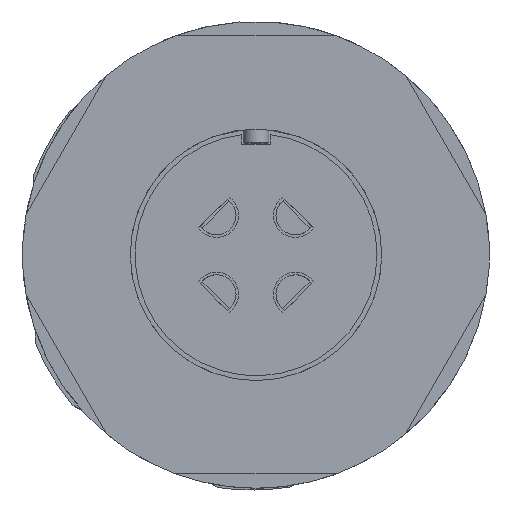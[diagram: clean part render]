
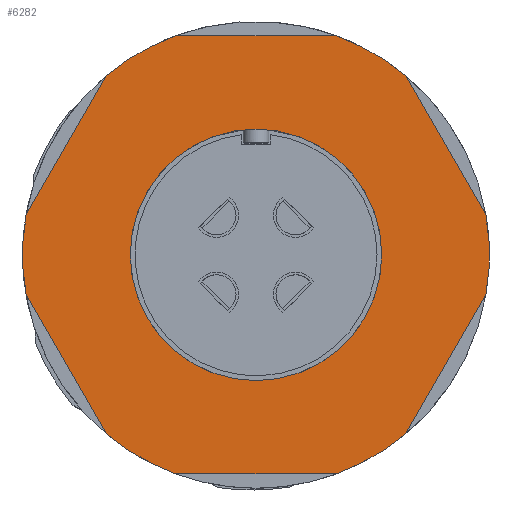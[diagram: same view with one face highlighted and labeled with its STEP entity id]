
A CAD part, front view. The second image highlights one B-rep face of the part: STEP entity #6282.
In plain terms, the highlighted planar face has unit normal (0, -1, 0).
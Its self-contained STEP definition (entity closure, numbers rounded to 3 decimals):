
#123=CARTESIAN_POINT('',(0.,0.,0.));
#124=DIRECTION('',(0.,1.,0.));
#125=DIRECTION('',(0.344,0.,0.939));
#126=AXIS2_PLACEMENT_3D('',#123,#124,#125);
#128=DIRECTION('',(0.5,0.,-0.866));
#129=VECTOR('',#128,6.196);
#130=CARTESIAN_POINT('',(5.769,0.,6.908));
#131=LINE('',#130,#129);
#132=CARTESIAN_POINT('',(0.,0.,0.));
#133=DIRECTION('',(0.,1.,0.));
#134=DIRECTION('',(0.985,0.,0.171));
#135=AXIS2_PLACEMENT_3D('',#132,#133,#134);
#137=DIRECTION('',(-0.5,0.,-0.866));
#138=VECTOR('',#137,6.196);
#139=CARTESIAN_POINT('',(8.867,0.,-1.542));
#140=LINE('',#139,#138);
#141=CARTESIAN_POINT('',(0.,0.,0.));
#142=DIRECTION('',(0.,1.,0.));
#143=DIRECTION('',(0.641,0.,-0.768));
#144=AXIS2_PLACEMENT_3D('',#141,#142,#143);
#146=CARTESIAN_POINT('',(0.,0.,0.));
#147=DIRECTION('',(0.,1.,0.));
#148=DIRECTION('',(-0.344,0.,-0.939));
#149=AXIS2_PLACEMENT_3D('',#146,#147,#148);
#151=DIRECTION('',(-0.5,0.,0.866));
#152=VECTOR('',#151,6.196);
#153=CARTESIAN_POINT('',(-5.769,0.,-6.908));
#154=LINE('',#153,#152);
#155=CARTESIAN_POINT('',(0.,0.,0.));
#156=DIRECTION('',(0.,1.,0.));
#157=DIRECTION('',(-0.985,0.,-0.171));
#158=AXIS2_PLACEMENT_3D('',#155,#156,#157);
#160=DIRECTION('',(0.5,0.,0.866));
#161=VECTOR('',#160,6.196);
#162=CARTESIAN_POINT('',(-8.867,0.,1.542));
#163=LINE('',#162,#161);
#164=CARTESIAN_POINT('',(0.,0.,0.));
#165=DIRECTION('',(0.,1.,0.));
#166=DIRECTION('',(-0.641,0.,0.768));
#167=AXIS2_PLACEMENT_3D('',#164,#165,#166);
#169=CARTESIAN_POINT('',(0.,0.,0.));
#170=DIRECTION('',(0.,-1.,0.));
#171=DIRECTION('',(0.,0.,-1.));
#172=AXIS2_PLACEMENT_3D('',#169,#170,#171);
#174=CARTESIAN_POINT('',(0.,0.,0.));
#175=DIRECTION('',(0.,-1.,0.));
#176=DIRECTION('',(0.,0.,1.));
#177=AXIS2_PLACEMENT_3D('',#174,#175,#176);
#204=DIRECTION('',(1.,0.,0.));
#205=VECTOR('',#204,6.196);
#206=CARTESIAN_POINT('',(-3.098,0.,-8.45));
#207=LINE('',#206,#205);
#264=DIRECTION('',(-1.,0.,0.));
#265=VECTOR('',#264,6.196);
#266=CARTESIAN_POINT('',(3.098,0.,8.45));
#267=LINE('',#266,#265);
#5478=CARTESIAN_POINT('',(-8.867,0.,1.542));
#5479=VERTEX_POINT('',#5478);
#5480=CARTESIAN_POINT('',(-5.769,0.,-6.908));
#5482=VERTEX_POINT('',#5480);
#5484=CARTESIAN_POINT('',(3.098,0.,-8.45));
#5486=VERTEX_POINT('',#5484);
#5488=CARTESIAN_POINT('',(8.867,0.,-1.542));
#5490=VERTEX_POINT('',#5488);
#5493=CARTESIAN_POINT('',(8.867,0.,1.542));
#5495=VERTEX_POINT('',#5493);
#5617=CARTESIAN_POINT('',(-3.098,0.,8.45));
#5619=VERTEX_POINT('',#5617);
#5635=CARTESIAN_POINT('',(5.769,0.,6.908));
#5636=VERTEX_POINT('',#5635);
#5637=CARTESIAN_POINT('',(3.098,0.,8.45));
#5638=VERTEX_POINT('',#5637);
#5639=CARTESIAN_POINT('',(5.769,0.,-6.908));
#5640=VERTEX_POINT('',#5639);
#5641=CARTESIAN_POINT('',(-3.098,0.,-8.45));
#5642=VERTEX_POINT('',#5641);
#5643=CARTESIAN_POINT('',(-8.867,0.,-1.542));
#5644=VERTEX_POINT('',#5643);
#5645=CARTESIAN_POINT('',(-5.769,0.,6.908));
#5646=VERTEX_POINT('',#5645);
#5647=CARTESIAN_POINT('',(0.,0.,-4.85));
#5648=CARTESIAN_POINT('',(0.,0.,4.85));
#5649=VERTEX_POINT('',#5647);
#5650=VERTEX_POINT('',#5648);
#6252=CARTESIAN_POINT('',(0.,0.,0.));
#6253=DIRECTION('',(0.,1.,0.));
#6254=DIRECTION('',(0.,0.,-1.));
#6255=AXIS2_PLACEMENT_3D('',#6252,#6253,#6254);
#6256=PLANE('',#6255);
#6257=ORIENTED_EDGE('',*,*,#6207,.T.);
#6258=ORIENTED_EDGE('',*,*,#6246,.T.);
#6259=ORIENTED_EDGE('',*,*,#6070,.T.);
#6261=ORIENTED_EDGE('',*,*,#6260,.T.);
#6262=ORIENTED_EDGE('',*,*,#6062,.T.);
#6264=ORIENTED_EDGE('',*,*,#6263,.F.);
#6265=ORIENTED_EDGE('',*,*,#6052,.T.);
#6267=ORIENTED_EDGE('',*,*,#6266,.T.);
#6268=ORIENTED_EDGE('',*,*,#6044,.T.);
#6270=ORIENTED_EDGE('',*,*,#6269,.T.);
#6271=ORIENTED_EDGE('',*,*,#6215,.T.);
#6273=ORIENTED_EDGE('',*,*,#6272,.F.);
#6274=EDGE_LOOP('',(#6257,#6258,#6259,#6261,#6262,#6264,#6265,#6267,#6268,#6270,
#6271,#6273));
#6275=FACE_OUTER_BOUND('',#6274,.F.);
#6277=ORIENTED_EDGE('',*,*,#6276,.T.);
#6279=ORIENTED_EDGE('',*,*,#6278,.T.);
#6280=EDGE_LOOP('',(#6277,#6279));
#6281=FACE_BOUND('',#6280,.F.);
#127=CIRCLE('',#126,9.);
#136=CIRCLE('',#135,9.);
#145=CIRCLE('',#144,9.);
#150=CIRCLE('',#149,9.);
#159=CIRCLE('',#158,9.);
#168=CIRCLE('',#167,9.);
#173=CIRCLE('',#172,4.85);
#178=CIRCLE('',#177,4.85);
#6044=EDGE_CURVE('',#5644,#5479,#159,.T.);
#6052=EDGE_CURVE('',#5642,#5482,#150,.T.);
#6062=EDGE_CURVE('',#5640,#5486,#145,.T.);
#6070=EDGE_CURVE('',#5495,#5490,#136,.T.);
#6207=EDGE_CURVE('',#5638,#5636,#127,.T.);
#6215=EDGE_CURVE('',#5646,#5619,#168,.T.);
#6246=EDGE_CURVE('',#5636,#5495,#131,.T.);
#6260=EDGE_CURVE('',#5490,#5640,#140,.T.);
#6263=EDGE_CURVE('',#5642,#5486,#207,.T.);
#6266=EDGE_CURVE('',#5482,#5644,#154,.T.);
#6269=EDGE_CURVE('',#5479,#5646,#163,.T.);
#6272=EDGE_CURVE('',#5638,#5619,#267,.T.);
#6276=EDGE_CURVE('',#5649,#5650,#173,.T.);
#6278=EDGE_CURVE('',#5650,#5649,#178,.T.);
#6282=ADVANCED_FACE('',(#6275,#6281),#6256,.F.);
